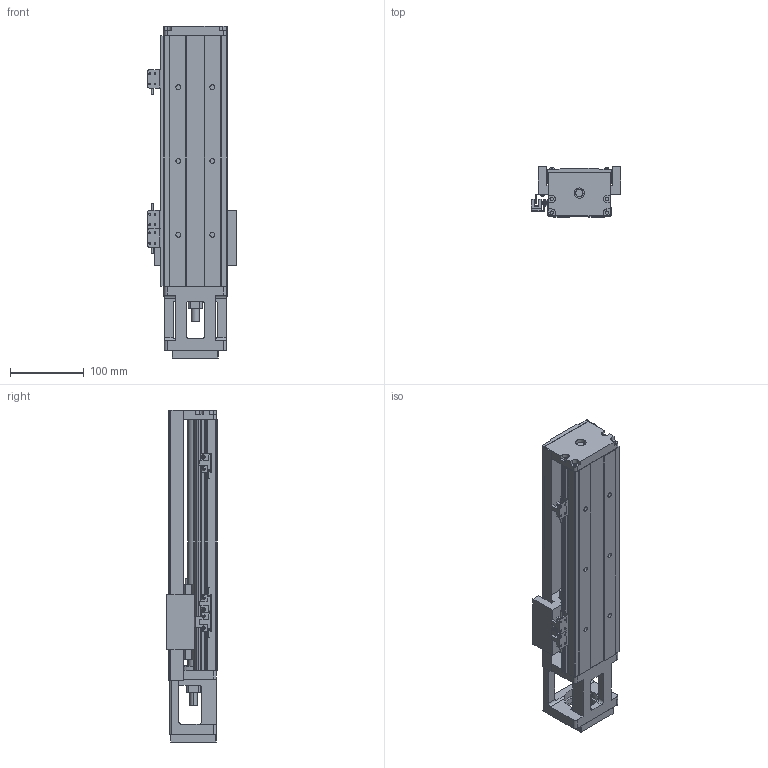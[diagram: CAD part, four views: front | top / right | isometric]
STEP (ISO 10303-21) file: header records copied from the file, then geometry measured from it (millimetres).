
FILE_DESCRIPTION (( 'STEP AP203' ), '1' );
FILE_NAME ('KH86D10C-340A1-F1CS2.STEP', '2023-12-29T01:36:40', ( '' ), ( '' ), 'SwSTEP 2.0', 'SolidWorks 2016', '' );
FILE_SCHEMA (( 'CONFIG_CONTROL_DESIGN' ));
Length unit declared in the file: millimetre
Products named in the file (48): KH86D10C-340A1-F1CS2; 囀鞠褒す埴芛蹟隊M3℅4; 囀鞠褒す埴芛蹟隊M4℅10; ヶ盓釱; 86賑輸; PM-Y45; KH86-A1; KH86-01-XXX; 鞠褒蹟譫M3; KH86-綴釱_KK86-05-01; 囀鞠褒す埴芛蹟隊M3℅5; KK60-08-01; KK86-蛌諉釱; KH86-F1; 嫖萇羲壽-L; KH86-04-05-02; 嫖萇羲壽-R
Assembly tree (29 placements, depth 3):
  KH86D10C-340A1-F1CS2
    KH86-01-XXX
    KH86-A1
      86賑輸
      KK86-蛌諉釱
    KH86-綴釱_KK86-05-01
    囀鞠褒す埴芛蹟隊M4℅10  x4
    KH86-04-05-02
    囀鞠褒す埴芛蹟隊M3℅5  x2
    KH86-F1
    嫖萇羲壽-L
      KK60-08-01
      PM-Y45
      鞠褒蹟譫M3  x2
      囀鞠褒す埴芛蹟隊M3℅4  x2
    嫖萇羲壽-R  x2
      KK60-08-01
      PM-Y45
      鞠褒蹟譫M3
      囀鞠褒す埴芛蹟隊M3℅4
    ヶ盓釱
  囀鞠褒す埴芛蹟隊M3℅4
  囀鞠褒す埴芛蹟隊M3℅4
  囀鞠褒す埴芛蹟隊M4℅10
  囀鞠褒す埴芛蹟隊M3℅4
Bounding box: 121 x 68 x 450 mm (x, y, z)
Volume: 1302801.4 mm3; surface area: 358626.1 mm2
Topology: 22 solids, 67 shells, 1550 faces, 3939 edges, 2475 vertices
Faces by surface type: plane 699, cylinder 453, cone 303, bspline 95
Entity records: 38101 total; most frequent: CARTESIAN_POINT 9886, ORIENTED_EDGE 4971, DIRECTION 4828, EDGE_CURVE 2497, AXIS2_PLACEMENT_3D 1674, VERTEX_POINT 1628, VECTOR 1480, LINE 1480
